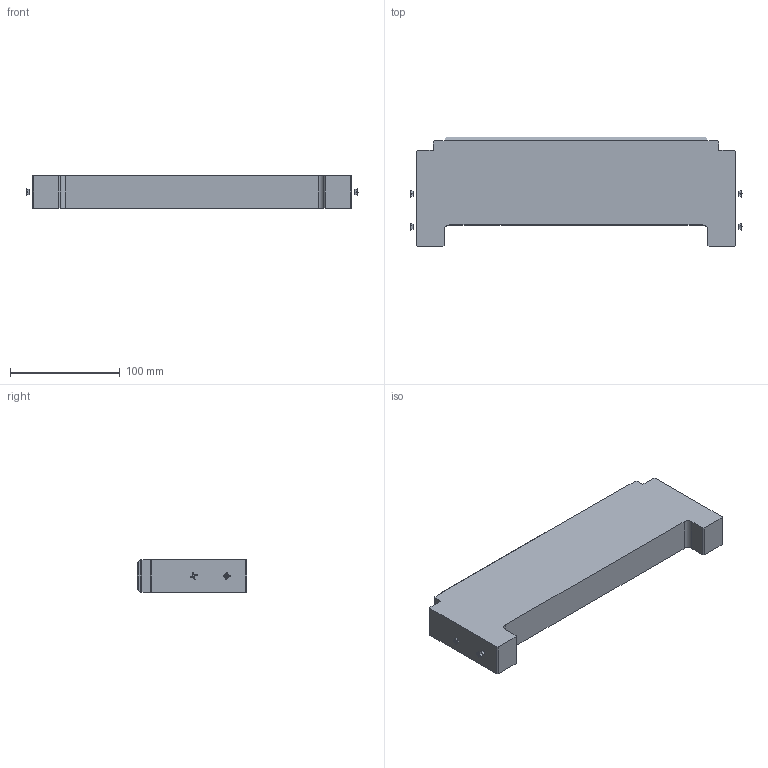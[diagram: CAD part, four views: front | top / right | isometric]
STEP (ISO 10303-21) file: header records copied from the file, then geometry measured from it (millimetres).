
FILE_DESCRIPTION(('CAx-IF Rec.Pracs.---Model Styling and Organization---1.2---2011-12-15','CAx-IF Rec.Pracs.---Geometric and Assembly Validation Properties---4.1---2014-06-16','CAx-IF Rec.Pracs.---PMI Polyline Presentation---2.0---2013-05-24'),'2;1');
FILE_NAME('R5MGBS10.stp','2021-05-05T12:54:16+03:00',(''),(''),'STEP Interface 4.4 by CT CoreTechnologie','3D_Evolution4.4 by CT CoreTechnologie','');
FILE_SCHEMA(('AUTOMOTIVE_DESIGN { 1 0 10303 214 1 1 1 1 }'));
Length unit declared in the file: millimetre
Products named in the file (3): R5MGBS10; RB.0799.00.00.0_-00; ST5,5x13 DIN 7981_thread
Assembly tree (5 placements, depth 2):
  R5MGBS10
    RB.0799.00.00.0_-00
    ST5,5x13 DIN 7981_thread  x4
Bounding box: 302 x 100 x 30 mm (x, y, z)
Surface area: 71820.1 mm2 (no closed solid volume)
Topology: 0 solids, 5 shells, 114 faces, 312 edges, 210 vertices
Faces by surface type: plane 84, bspline 24, cylinder 6
Entity records: 2058 total; most frequent: CARTESIAN_POINT 396, ORIENTED_EDGE 318, DIRECTION 304, EDGE_CURVE 159, VECTOR 128, LINE 128, VERTEX_POINT 108, AXIS2_PLACEMENT_3D 88
